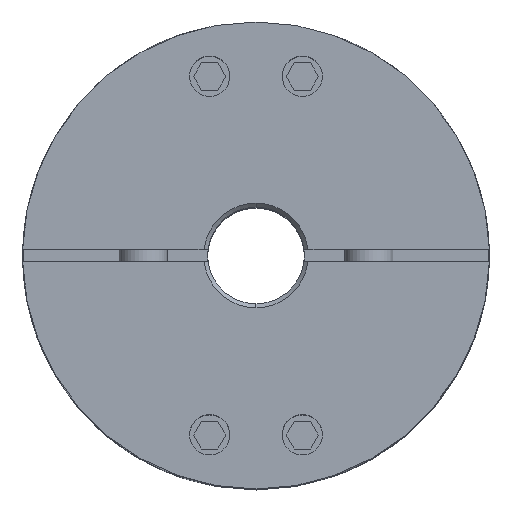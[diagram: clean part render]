
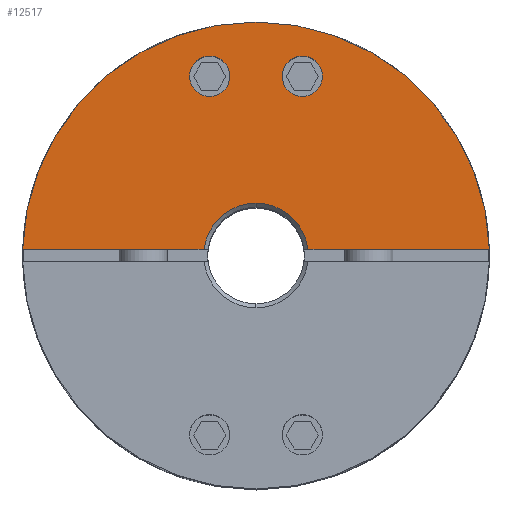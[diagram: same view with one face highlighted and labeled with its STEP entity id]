
A CAD part, top view. The second image highlights one B-rep face of the part: STEP entity #12517.
In plain terms, the highlighted planar face has unit normal (0, 0, 1).
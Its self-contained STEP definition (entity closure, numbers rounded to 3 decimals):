
#4905=CARTESIAN_POINT('',(5.759,24.767,35.75));
#4906=VERTEX_POINT('',#4905);
#4915=CARTESIAN_POINT('',(5.759,19.767,35.75));
#4916=VERTEX_POINT('',#4915);
#4917=CARTESIAN_POINT('',(5.759,22.267,35.75));
#4918=DIRECTION('',(0.0,0.0,-1.0));
#4919=DIRECTION('',(0.0,1.0,0.0));
#4920=AXIS2_PLACEMENT_3D('',#4917,#4918,#4919);
#4921=CIRCLE('',#4920,2.5);
#4922=EDGE_CURVE('',#4916,#4906,#4921,.T.);
#4947=CARTESIAN_POINT('',(-5.759,24.767,35.75));
#4948=VERTEX_POINT('',#4947);
#4957=CARTESIAN_POINT('',(-5.759,19.767,35.75));
#4958=VERTEX_POINT('',#4957);
#4959=CARTESIAN_POINT('',(-5.759,22.267,35.75));
#4960=DIRECTION('',(0.0,0.0,-1.0));
#4961=DIRECTION('',(0.0,1.0,0.0));
#4962=AXIS2_PLACEMENT_3D('',#4959,#4960,#4961);
#4963=CIRCLE('',#4962,2.5);
#4964=EDGE_CURVE('',#4958,#4948,#4963,.T.);
#5201=CARTESIAN_POINT('',(0.,29.0,35.75));
#5202=VERTEX_POINT('',#5201);
#5350=CARTESIAN_POINT('',(-28.99,0.75,35.75));
#5351=VERTEX_POINT('',#5350);
#5358=CARTESIAN_POINT('',(0.,0.0,35.75));
#5359=DIRECTION('',(0.0,0.0,-1.0));
#5360=DIRECTION('',(0.0,1.0,0.0));
#5361=AXIS2_PLACEMENT_3D('',#5358,#5359,#5360);
#5362=CIRCLE('',#5361,29.0);
#5363=EDGE_CURVE('',#5351,#5202,#5362,.T.);
#5535=CARTESIAN_POINT('',(0.,6.5,35.75));
#5536=VERTEX_POINT('',#5535);
#5552=CARTESIAN_POINT('',(6.457,0.75,35.75));
#5553=VERTEX_POINT('',#5552);
#5567=CARTESIAN_POINT('',(0.,0.0,35.75));
#5568=DIRECTION('',(0.0,0.0,1.0));
#5569=DIRECTION('',(0.0,1.0,0.0));
#5570=AXIS2_PLACEMENT_3D('',#5567,#5568,#5569);
#5571=CIRCLE('',#5570,6.5);
#5572=EDGE_CURVE('',#5553,#5536,#5571,.T.);
#12023=CARTESIAN_POINT('',(-6.457,0.75,35.75));
#12024=VERTEX_POINT('',#12023);
#12025=CARTESIAN_POINT('',(0.,0.0,35.75));
#12026=DIRECTION('',(0.0,0.0,1.0));
#12027=DIRECTION('',(0.0,1.0,0.0));
#12028=AXIS2_PLACEMENT_3D('',#12025,#12026,#12027);
#12029=CIRCLE('',#12028,6.5);
#12030=EDGE_CURVE('',#5536,#12024,#12029,.T.);
#12055=CARTESIAN_POINT('',(-28.99,0.75,35.75));
#12056=DIRECTION('',(1.0,0.0,0.0));
#12057=VECTOR('',#12056,22.534);
#12058=LINE('',#12055,#12057);
#12059=EDGE_CURVE('',#5351,#12024,#12058,.T.);
#12091=CARTESIAN_POINT('',(28.99,0.75,35.75));
#12092=VERTEX_POINT('',#12091);
#12099=CARTESIAN_POINT('',(6.457,0.75,35.75));
#12100=DIRECTION('',(1.0,0.0,0.0));
#12101=VECTOR('',#12100,22.534);
#12102=LINE('',#12099,#12101);
#12103=EDGE_CURVE('',#5553,#12092,#12102,.T.);
#12218=CARTESIAN_POINT('',(0.,0.0,35.75));
#12219=DIRECTION('',(0.0,0.0,-1.0));
#12220=DIRECTION('',(0.0,1.0,0.0));
#12221=AXIS2_PLACEMENT_3D('',#12218,#12219,#12220);
#12222=CIRCLE('',#12221,29.0);
#12223=EDGE_CURVE('',#5202,#12092,#12222,.T.);
#12456=CARTESIAN_POINT('',(-5.759,22.267,35.75));
#12457=DIRECTION('',(0.0,0.0,-1.0));
#12458=DIRECTION('',(0.0,1.0,0.0));
#12459=AXIS2_PLACEMENT_3D('',#12456,#12457,#12458);
#12460=CIRCLE('',#12459,2.5);
#12461=EDGE_CURVE('',#4948,#4958,#12460,.T.);
#12474=CARTESIAN_POINT('',(5.759,22.267,35.75));
#12475=DIRECTION('',(0.0,0.0,-1.0));
#12476=DIRECTION('',(0.0,1.0,0.0));
#12477=AXIS2_PLACEMENT_3D('',#12474,#12475,#12476);
#12478=CIRCLE('',#12477,2.5);
#12479=EDGE_CURVE('',#4906,#4916,#12478,.T.);
#12496=CARTESIAN_POINT('',(0.,2.636,35.75));
#12497=DIRECTION('',(0.0,0.0,1.0));
#12498=DIRECTION('',(0.0,1.0,0.0));
#12499=AXIS2_PLACEMENT_3D('',#12496,#12497,#12498);
#12500=PLANE('',#12499);
#12501=ORIENTED_EDGE('',*,*,#5572,.F.);
#12502=ORIENTED_EDGE('',*,*,#12103,.T.);
#12503=ORIENTED_EDGE('',*,*,#12223,.F.);
#12504=ORIENTED_EDGE('',*,*,#5363,.F.);
#12505=ORIENTED_EDGE('',*,*,#12059,.T.);
#12506=ORIENTED_EDGE('',*,*,#12030,.F.);
#12507=EDGE_LOOP('',(#12501,#12502,#12503,#12504,#12505,#12506));
#12508=FACE_OUTER_BOUND('',#12507,.T.);
#12509=ORIENTED_EDGE('',*,*,#12461,.T.);
#12510=ORIENTED_EDGE('',*,*,#4964,.T.);
#12511=EDGE_LOOP('',(#12509,#12510));
#12512=FACE_BOUND('',#12511,.T.);
#12513=ORIENTED_EDGE('',*,*,#12479,.T.);
#12514=ORIENTED_EDGE('',*,*,#4922,.T.);
#12515=EDGE_LOOP('',(#12513,#12514));
#12516=FACE_BOUND('',#12515,.T.);
#12517=ADVANCED_FACE('',(#12508,#12512,#12516),#12500,.T.);
